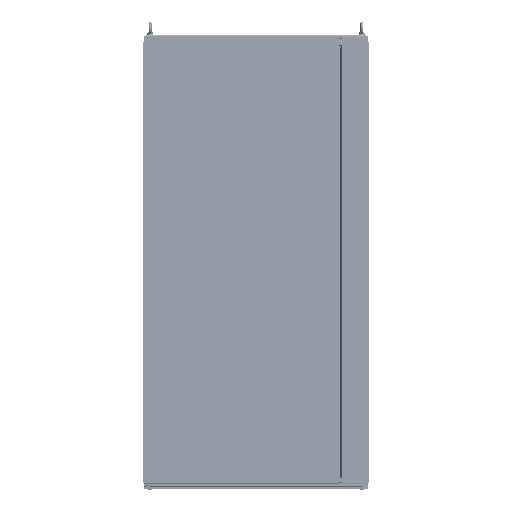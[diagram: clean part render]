
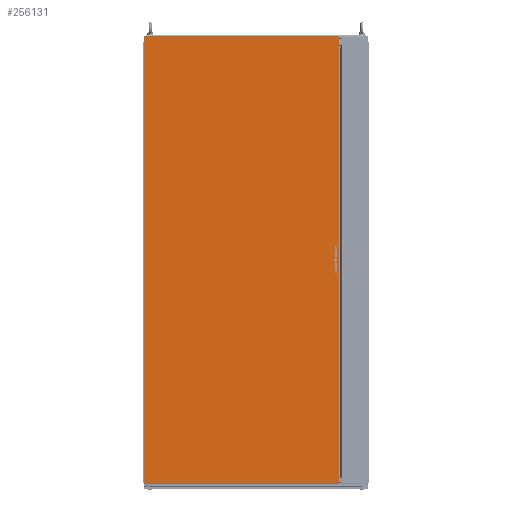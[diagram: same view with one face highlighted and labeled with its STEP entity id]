
A CAD part, top view. The second image highlights one B-rep face of the part: STEP entity #256131.
In plain terms, the highlighted planar face has unit normal (0, 0, 1).
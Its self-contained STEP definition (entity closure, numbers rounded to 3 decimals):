
#254280=DIRECTION('',(0.,1.,0.));
#254281=VECTOR('',#254280,1896.);
#254282=CARTESIAN_POINT('',(-430.5,-937.25,15.));
#254283=LINE('',#254282,#254281);
#254284=CARTESIAN_POINT('',(-414.5,43.75,15.));
#254285=DIRECTION('',(0.,0.,1.));
#254286=DIRECTION('',(1.,0.,0.));
#254287=AXIS2_PLACEMENT_3D('',#254284,#254285,#254286);
#254289=DIRECTION('',(0.,-1.,0.));
#254290=VECTOR('',#254289,27.5);
#254291=CARTESIAN_POINT('',(-419.4,43.75,15.));
#254292=LINE('',#254291,#254290);
#254293=CARTESIAN_POINT('',(-414.5,16.25,15.));
#254294=DIRECTION('',(0.,0.,1.));
#254295=DIRECTION('',(-1.,0.,0.));
#254296=AXIS2_PLACEMENT_3D('',#254293,#254294,#254295);
#254298=DIRECTION('',(0.,1.,0.));
#254299=VECTOR('',#254298,27.5);
#254300=CARTESIAN_POINT('',(-409.6,16.25,15.));
#254301=LINE('',#254300,#254299);
#254302=DIRECTION('',(0.,1.,0.));
#254303=VECTOR('',#254302,27.5);
#254304=CARTESIAN_POINT('',(-409.6,-43.75,15.));
#254305=LINE('',#254304,#254303);
#254306=CARTESIAN_POINT('',(-414.5,-16.25,15.));
#254307=DIRECTION('',(0.,0.,1.));
#254308=DIRECTION('',(1.,0.,0.));
#254309=AXIS2_PLACEMENT_3D('',#254306,#254307,#254308);
#254311=DIRECTION('',(0.,-1.,0.));
#254312=VECTOR('',#254311,27.5);
#254313=CARTESIAN_POINT('',(-419.4,-16.25,15.));
#254314=LINE('',#254313,#254312);
#254315=CARTESIAN_POINT('',(-414.5,-43.75,15.));
#254316=DIRECTION('',(0.,0.,1.));
#254317=DIRECTION('',(-1.,0.,0.));
#254318=AXIS2_PLACEMENT_3D('',#254315,#254316,#254317);
#254320=CARTESIAN_POINT('',(-414.5,56.,15.));
#254321=DIRECTION('',(0.,0.,1.));
#254322=DIRECTION('',(1.,0.,0.));
#254323=AXIS2_PLACEMENT_3D('',#254320,#254321,#254322);
#254325=CARTESIAN_POINT('',(-414.5,56.,15.));
#254326=DIRECTION('',(0.,0.,1.));
#254327=DIRECTION('',(-1.,0.,0.));
#254328=AXIS2_PLACEMENT_3D('',#254325,#254326,#254327);
#254330=CARTESIAN_POINT('',(-414.5,-56.,15.));
#254331=DIRECTION('',(0.,0.,1.));
#254332=DIRECTION('',(1.,0.,0.));
#254333=AXIS2_PLACEMENT_3D('',#254330,#254331,#254332);
#254335=CARTESIAN_POINT('',(-414.5,-56.,15.));
#254336=DIRECTION('',(0.,0.,1.));
#254337=DIRECTION('',(-1.,0.,0.));
#254338=AXIS2_PLACEMENT_3D('',#254335,#254336,#254337);
#254340=CARTESIAN_POINT('',(-414.5,0.,15.));
#254341=DIRECTION('',(0.,0.,1.));
#254342=DIRECTION('',(1.,0.,0.));
#254343=AXIS2_PLACEMENT_3D('',#254340,#254341,#254342);
#254345=CARTESIAN_POINT('',(-414.5,0.,15.));
#254346=DIRECTION('',(0.,0.,1.));
#254347=DIRECTION('',(-1.,0.,0.));
#254348=AXIS2_PLACEMENT_3D('',#254345,#254346,#254347);
#254350=DIRECTION('',(-1.,0.,0.));
#254351=VECTOR('',#254350,861.);
#254352=CARTESIAN_POINT('',(430.5,985.75,15.));
#254353=LINE('',#254352,#254351);
#254354=DIRECTION('',(0.,1.,0.));
#254355=VECTOR('',#254354,1971.5);
#254356=CARTESIAN_POINT('',(430.5,-985.75,15.));
#254357=LINE('',#254356,#254355);
#254358=DIRECTION('',(0.,-1.,0.));
#254359=VECTOR('',#254358,48.5);
#254360=CARTESIAN_POINT('',(-430.5,-937.25,15.));
#254361=LINE('',#254360,#254359);
#254362=DIRECTION('',(0.,-1.,0.));
#254363=VECTOR('',#254362,27.);
#254364=CARTESIAN_POINT('',(-430.5,985.75,15.));
#254365=LINE('',#254364,#254363);
#255254=DIRECTION('',(-1.,0.,0.));
#255255=VECTOR('',#255254,861.);
#255256=CARTESIAN_POINT('',(430.5,-985.75,15.));
#255257=LINE('',#255256,#255255);
#255647=CARTESIAN_POINT('',(430.5,-985.75,15.));
#255649=VERTEX_POINT('',#255647);
#255651=CARTESIAN_POINT('',(430.5,985.75,15.));
#255653=VERTEX_POINT('',#255651);
#255694=CARTESIAN_POINT('',(-409.6,43.75,15.));
#255695=CARTESIAN_POINT('',(-419.4,43.75,15.));
#255696=VERTEX_POINT('',#255694);
#255697=VERTEX_POINT('',#255695);
#255698=CARTESIAN_POINT('',(-419.4,16.25,15.));
#255699=VERTEX_POINT('',#255698);
#255700=CARTESIAN_POINT('',(-409.6,16.25,15.));
#255701=VERTEX_POINT('',#255700);
#255702=CARTESIAN_POINT('',(-409.6,-43.75,15.));
#255703=CARTESIAN_POINT('',(-409.6,-16.25,15.));
#255704=VERTEX_POINT('',#255702);
#255705=VERTEX_POINT('',#255703);
#255706=CARTESIAN_POINT('',(-419.4,-16.25,15.));
#255707=VERTEX_POINT('',#255706);
#255708=CARTESIAN_POINT('',(-419.4,-43.75,15.));
#255709=VERTEX_POINT('',#255708);
#255726=CARTESIAN_POINT('',(-410.5,56.,15.));
#255727=CARTESIAN_POINT('',(-418.5,56.,15.));
#255728=VERTEX_POINT('',#255726);
#255729=VERTEX_POINT('',#255727);
#255730=CARTESIAN_POINT('',(-410.5,-56.,15.));
#255731=CARTESIAN_POINT('',(-418.5,-56.,15.));
#255732=VERTEX_POINT('',#255730);
#255733=VERTEX_POINT('',#255731);
#255734=CARTESIAN_POINT('',(-406.75,0.,15.));
#255735=CARTESIAN_POINT('',(-422.25,0.,15.));
#255736=VERTEX_POINT('',#255734);
#255737=VERTEX_POINT('',#255735);
#255934=CARTESIAN_POINT('',(-430.5,985.75,15.));
#255935=CARTESIAN_POINT('',(-430.5,958.75,15.));
#255936=VERTEX_POINT('',#255934);
#255937=VERTEX_POINT('',#255935);
#255938=CARTESIAN_POINT('',(-430.5,-937.25,15.));
#255939=CARTESIAN_POINT('',(-430.5,-985.75,15.));
#255940=VERTEX_POINT('',#255938);
#255941=VERTEX_POINT('',#255939);
#256075=CARTESIAN_POINT('',(430.5,-985.75,15.));
#256076=DIRECTION('',(0.,0.,1.));
#256077=DIRECTION('',(-1.,0.,0.));
#256078=AXIS2_PLACEMENT_3D('',#256075,#256076,#256077);
#256079=PLANE('',#256078);
#256081=ORIENTED_EDGE('',*,*,#256080,.F.);
#256083=ORIENTED_EDGE('',*,*,#256082,.F.);
#256085=ORIENTED_EDGE('',*,*,#256084,.T.);
#256087=ORIENTED_EDGE('',*,*,#256086,.F.);
#256088=ORIENTED_EDGE('',*,*,#256067,.T.);
#256090=ORIENTED_EDGE('',*,*,#256089,.F.);
#256091=EDGE_LOOP('',(#256081,#256083,#256085,#256087,#256088,#256090));
#256092=FACE_OUTER_BOUND('',#256091,.F.);
#256094=ORIENTED_EDGE('',*,*,#256093,.T.);
#256096=ORIENTED_EDGE('',*,*,#256095,.T.);
#256098=ORIENTED_EDGE('',*,*,#256097,.T.);
#256100=ORIENTED_EDGE('',*,*,#256099,.T.);
#256101=EDGE_LOOP('',(#256094,#256096,#256098,#256100));
#256102=FACE_BOUND('',#256101,.F.);
#256104=ORIENTED_EDGE('',*,*,#256103,.T.);
#256106=ORIENTED_EDGE('',*,*,#256105,.T.);
#256107=EDGE_LOOP('',(#256104,#256106));
#256108=FACE_BOUND('',#256107,.F.);
#256110=ORIENTED_EDGE('',*,*,#256109,.T.);
#256112=ORIENTED_EDGE('',*,*,#256111,.T.);
#256113=EDGE_LOOP('',(#256110,#256112));
#256114=FACE_BOUND('',#256113,.F.);
#256116=ORIENTED_EDGE('',*,*,#256115,.T.);
#256118=ORIENTED_EDGE('',*,*,#256117,.T.);
#256119=EDGE_LOOP('',(#256116,#256118));
#256120=FACE_BOUND('',#256119,.F.);
#256122=ORIENTED_EDGE('',*,*,#256121,.T.);
#256124=ORIENTED_EDGE('',*,*,#256123,.T.);
#256126=ORIENTED_EDGE('',*,*,#256125,.T.);
#256128=ORIENTED_EDGE('',*,*,#256127,.T.);
#256129=EDGE_LOOP('',(#256122,#256124,#256126,#256128));
#256130=FACE_BOUND('',#256129,.F.);
#256131=ADVANCED_FACE('',(#256092,#256102,#256108,#256114,#256120,#256130),
#256079,.T.);
#254288=CIRCLE('',#254287,4.9);
#254297=CIRCLE('',#254296,4.9);
#254310=CIRCLE('',#254309,4.9);
#254319=CIRCLE('',#254318,4.9);
#254324=CIRCLE('',#254323,4.);
#254329=CIRCLE('',#254328,4.);
#254334=CIRCLE('',#254333,4.);
#254339=CIRCLE('',#254338,4.);
#254344=CIRCLE('',#254343,7.75);
#254349=CIRCLE('',#254348,7.75);
#256067=EDGE_CURVE('',#255940,#255937,#254283,.T.);
#256080=EDGE_CURVE('',#255653,#255936,#254353,.T.);
#256082=EDGE_CURVE('',#255649,#255653,#254357,.T.);
#256084=EDGE_CURVE('',#255649,#255941,#255257,.T.);
#256086=EDGE_CURVE('',#255940,#255941,#254361,.T.);
#256089=EDGE_CURVE('',#255936,#255937,#254365,.T.);
#256093=EDGE_CURVE('',#255704,#255705,#254305,.T.);
#256095=EDGE_CURVE('',#255705,#255707,#254310,.T.);
#256097=EDGE_CURVE('',#255707,#255709,#254314,.T.);
#256099=EDGE_CURVE('',#255709,#255704,#254319,.T.);
#256103=EDGE_CURVE('',#255728,#255729,#254324,.T.);
#256105=EDGE_CURVE('',#255729,#255728,#254329,.T.);
#256109=EDGE_CURVE('',#255732,#255733,#254334,.T.);
#256111=EDGE_CURVE('',#255733,#255732,#254339,.T.);
#256115=EDGE_CURVE('',#255736,#255737,#254344,.T.);
#256117=EDGE_CURVE('',#255737,#255736,#254349,.T.);
#256121=EDGE_CURVE('',#255696,#255697,#254288,.T.);
#256123=EDGE_CURVE('',#255697,#255699,#254292,.T.);
#256125=EDGE_CURVE('',#255699,#255701,#254297,.T.);
#256127=EDGE_CURVE('',#255701,#255696,#254301,.T.);
